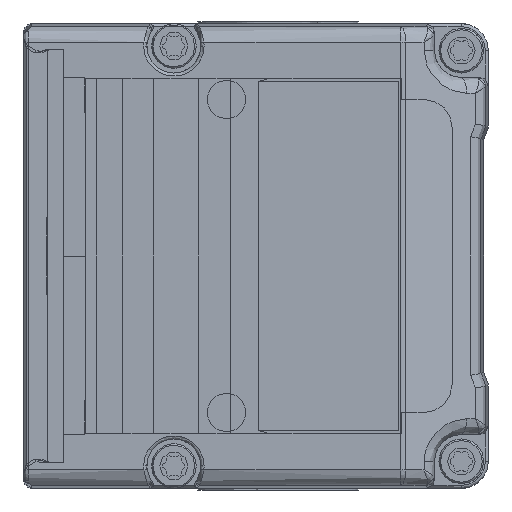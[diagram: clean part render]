
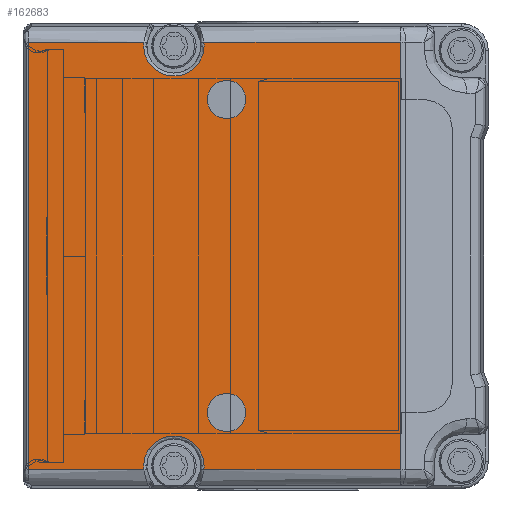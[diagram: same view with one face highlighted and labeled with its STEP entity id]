
A CAD part, left-side view. The second image highlights one B-rep face of the part: STEP entity #162683.
In plain terms, the highlighted planar face has unit normal (-1, 0, 0).
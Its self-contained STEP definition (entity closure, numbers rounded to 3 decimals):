
#158571=CARTESIAN_POINT('',(-30.,16.9,10.1));
#158572=DIRECTION('',(1.,0.,0.));
#158573=DIRECTION('',(0.,0.,1.));
#158574=AXIS2_PLACEMENT_3D('',#158571,#158572,#158573);
#158590=CARTESIAN_POINT('',(-30.,16.9,10.1));
#158591=DIRECTION('',(1.,0.,0.));
#158592=DIRECTION('',(0.,0.,-1.));
#158593=AXIS2_PLACEMENT_3D('',#158590,#158591,#158592);
#158599=DIRECTION('',(0.,-1.,0.));
#158600=VECTOR('',#158599,7.467);
#158601=CARTESIAN_POINT('',(-30.,29.7,13.804));
#158602=LINE('',#158601,#158600);
#158603=CARTESIAN_POINT('',(-30.,20.3,13.55));
#158604=DIRECTION('',(-1.,0.,0.));
#158605=DIRECTION('',(0.,0.991,0.13));
#158606=AXIS2_PLACEMENT_3D('',#158603,#158604,#158605);
#158608=CARTESIAN_POINT('',(-30.,20.3,13.55));
#158609=DIRECTION('',(-1.,0.,0.));
#158610=DIRECTION('',(0.,1.,0.));
#158611=AXIS2_PLACEMENT_3D('',#158608,#158609,#158610);
#158613=CARTESIAN_POINT('',(-30.,20.3,13.55));
#158614=DIRECTION('',(-1.,0.,0.));
#158615=DIRECTION('',(0.,-1.,0.));
#158616=AXIS2_PLACEMENT_3D('',#158613,#158614,#158615);
#158618=DIRECTION('',(0.,-1.,0.));
#158619=VECTOR('',#158618,12.69);
#158620=CARTESIAN_POINT('',(-30.,18.367,13.804));
#158621=LINE('',#158620,#158619);
#158622=DIRECTION('',(0.,0.,-1.));
#158623=VECTOR('',#158622,27.608);
#158624=CARTESIAN_POINT('',(-30.,5.676,13.804));
#158625=LINE('',#158624,#158623);
#158626=DIRECTION('',(0.,1.,0.));
#158627=VECTOR('',#158626,12.69);
#158628=CARTESIAN_POINT('',(-30.,5.676,-13.804));
#158629=LINE('',#158628,#158627);
#158630=CARTESIAN_POINT('',(-30.,20.3,-13.55));
#158631=DIRECTION('',(-1.,0.,0.));
#158632=DIRECTION('',(0.,-0.991,-0.13));
#158633=AXIS2_PLACEMENT_3D('',#158630,#158631,#158632);
#158635=CARTESIAN_POINT('',(-30.,20.3,-13.55));
#158636=DIRECTION('',(-1.,0.,0.));
#158637=DIRECTION('',(0.,-1.,0.));
#158638=AXIS2_PLACEMENT_3D('',#158635,#158636,#158637);
#158640=CARTESIAN_POINT('',(-30.,20.3,-13.55));
#158641=DIRECTION('',(-1.,0.,0.));
#158642=DIRECTION('',(0.,1.,0.));
#158643=AXIS2_PLACEMENT_3D('',#158640,#158641,#158642);
#158645=DIRECTION('',(0.,1.,0.));
#158646=VECTOR('',#158645,7.467);
#158647=CARTESIAN_POINT('',(-30.,22.233,-13.804));
#158648=LINE('',#158647,#158646);
#158649=DIRECTION('',(0.,0.,1.));
#158650=VECTOR('',#158649,27.608);
#158651=CARTESIAN_POINT('',(-30.,29.7,-13.804));
#158652=LINE('',#158651,#158650);
#162161=CARTESIAN_POINT('',(-30.,16.9,-10.1));
#162162=DIRECTION('',(1.,0.,0.));
#162163=DIRECTION('',(0.,0.,-1.));
#162164=AXIS2_PLACEMENT_3D('',#162161,#162162,#162163);
#162170=CARTESIAN_POINT('',(-30.,16.9,-10.1));
#162171=DIRECTION('',(1.,0.,0.));
#162172=DIRECTION('',(0.,0.,1.));
#162173=AXIS2_PLACEMENT_3D('',#162170,#162171,#162172);
#162197=CARTESIAN_POINT('',(-30.,18.35,-13.55));
#162198=CARTESIAN_POINT('',(-30.,22.25,-13.55));
#162199=VERTEX_POINT('',#162197);
#162200=VERTEX_POINT('',#162198);
#162201=CARTESIAN_POINT('',(-30.,18.367,-13.804));
#162202=VERTEX_POINT('',#162201);
#162203=CARTESIAN_POINT('',(-30.,22.233,13.804));
#162204=CARTESIAN_POINT('',(-30.,22.25,13.55));
#162205=VERTEX_POINT('',#162203);
#162206=VERTEX_POINT('',#162204);
#162238=CARTESIAN_POINT('',(-30.,29.7,13.804));
#162239=VERTEX_POINT('',#162238);
#162240=CARTESIAN_POINT('',(-30.,16.9,8.85));
#162241=CARTESIAN_POINT('',(-30.,16.9,11.35));
#162242=VERTEX_POINT('',#162240);
#162243=VERTEX_POINT('',#162241);
#162244=CARTESIAN_POINT('',(-30.,16.9,-11.35));
#162245=CARTESIAN_POINT('',(-30.,16.9,-8.85));
#162246=VERTEX_POINT('',#162244);
#162247=VERTEX_POINT('',#162245);
#162452=CARTESIAN_POINT('',(-30.,18.367,13.804));
#162453=CARTESIAN_POINT('',(-30.,5.676,13.804));
#162454=VERTEX_POINT('',#162452);
#162455=VERTEX_POINT('',#162453);
#162459=CARTESIAN_POINT('',(-30.,29.7,-13.804));
#162461=VERTEX_POINT('',#162459);
#162464=CARTESIAN_POINT('',(-30.,18.35,13.55));
#162466=VERTEX_POINT('',#162464);
#162485=CARTESIAN_POINT('',(-30.,5.676,-13.804));
#162486=VERTEX_POINT('',#162485);
#162536=CARTESIAN_POINT('',(-30.,22.233,-13.804));
#162537=VERTEX_POINT('',#162536);
#162642=CARTESIAN_POINT('',(-30.,30.,-15.));
#162643=DIRECTION('',(-1.,0.,0.));
#162644=DIRECTION('',(0.,-1.,0.));
#162645=AXIS2_PLACEMENT_3D('',#162642,#162643,#162644);
#162646=PLANE('',#162645);
#162648=ORIENTED_EDGE('',*,*,#162647,.T.);
#162650=ORIENTED_EDGE('',*,*,#162649,.T.);
#162652=ORIENTED_EDGE('',*,*,#162651,.T.);
#162654=ORIENTED_EDGE('',*,*,#162653,.T.);
#162656=ORIENTED_EDGE('',*,*,#162655,.T.);
#162658=ORIENTED_EDGE('',*,*,#162657,.T.);
#162660=ORIENTED_EDGE('',*,*,#162659,.T.);
#162662=ORIENTED_EDGE('',*,*,#162661,.T.);
#162664=ORIENTED_EDGE('',*,*,#162663,.T.);
#162666=ORIENTED_EDGE('',*,*,#162665,.T.);
#162668=ORIENTED_EDGE('',*,*,#162667,.T.);
#162670=ORIENTED_EDGE('',*,*,#162669,.T.);
#162671=EDGE_LOOP('',(#162648,#162650,#162652,#162654,#162656,#162658,#162660,
#162662,#162664,#162666,#162668,#162670));
#162672=FACE_OUTER_BOUND('',#162671,.F.);
#162673=ORIENTED_EDGE('',*,*,#162635,.F.);
#162674=ORIENTED_EDGE('',*,*,#162611,.F.);
#162675=EDGE_LOOP('',(#162673,#162674));
#162676=FACE_BOUND('',#162675,.F.);
#162678=ORIENTED_EDGE('',*,*,#162677,.F.);
#162680=ORIENTED_EDGE('',*,*,#162679,.F.);
#162681=EDGE_LOOP('',(#162678,#162680));
#162682=FACE_BOUND('',#162681,.F.);
#162683=ADVANCED_FACE('',(#162672,#162676,#162682),#162646,.T.);
#158575=CIRCLE('',#158574,1.25);
#158594=CIRCLE('',#158593,1.25);
#158607=CIRCLE('',#158606,1.95);
#158612=CIRCLE('',#158611,1.95);
#158617=CIRCLE('',#158616,1.95);
#158634=CIRCLE('',#158633,1.95);
#158639=CIRCLE('',#158638,1.95);
#158644=CIRCLE('',#158643,1.95);
#162165=CIRCLE('',#162164,1.25);
#162174=CIRCLE('',#162173,1.25);
#162611=EDGE_CURVE('',#162243,#162242,#158575,.T.);
#162635=EDGE_CURVE('',#162242,#162243,#158594,.T.);
#162647=EDGE_CURVE('',#162239,#162205,#158602,.T.);
#162649=EDGE_CURVE('',#162205,#162206,#158607,.T.);
#162651=EDGE_CURVE('',#162206,#162466,#158612,.T.);
#162653=EDGE_CURVE('',#162466,#162454,#158617,.T.);
#162655=EDGE_CURVE('',#162454,#162455,#158621,.T.);
#162657=EDGE_CURVE('',#162455,#162486,#158625,.T.);
#162659=EDGE_CURVE('',#162486,#162202,#158629,.T.);
#162661=EDGE_CURVE('',#162202,#162199,#158634,.T.);
#162663=EDGE_CURVE('',#162199,#162200,#158639,.T.);
#162665=EDGE_CURVE('',#162200,#162537,#158644,.T.);
#162667=EDGE_CURVE('',#162537,#162461,#158648,.T.);
#162669=EDGE_CURVE('',#162461,#162239,#158652,.T.);
#162677=EDGE_CURVE('',#162246,#162247,#162165,.T.);
#162679=EDGE_CURVE('',#162247,#162246,#162174,.T.);
